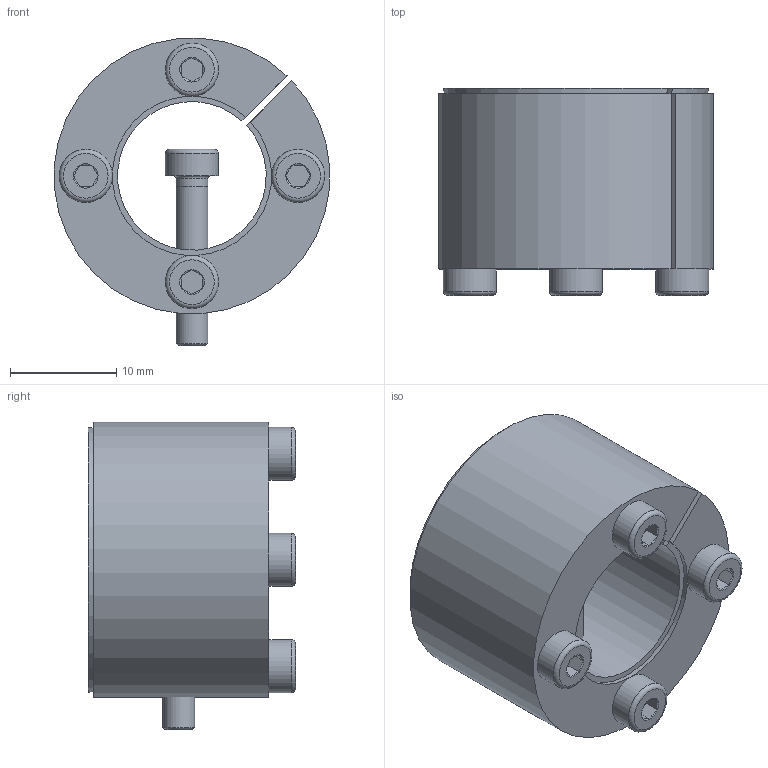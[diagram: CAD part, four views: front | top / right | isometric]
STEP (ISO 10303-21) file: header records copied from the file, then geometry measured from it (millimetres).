
FILE_DESCRIPTION( ( 'Unknown' ), '1' );
FILE_NAME( 'C:/Dokumente und Einstellungen/Sven/Desktop/homepage/cad - homepage/KBS61/KBS 61 - 14 x 26.stp', 'Unknown', ( 'Unknown' ), ( 'Unknown' ), 'XStep 1.0', 'Unknown', ' ' );
FILE_SCHEMA( ( 'automotive_design' ) );
Length unit declared in the file: millimetre
Products named in the file (3): Assem1; KBS 61 - 14 x 26; ISO EN DIN 4762 M3x16
Bounding box: 25.93 x 19.5 x 28.97 mm (x, y, z)
Volume: 12439.5 mm3; surface area: 8486.2 mm2
Topology: 7 solids, 7 shells, 153 faces, 295 edges, 176 vertices
Faces by surface type: plane 72, cone 39, cylinder 32, torus 10
Full cylindrical faces by diameter (mm): 2.98 x5, 3 x18, 5 x5
Entity records: 1174 total; most frequent: CARTESIAN_POINT 205, DIRECTION 180, ORIENTED_EDGE 134, AXIS2_PLACEMENT_3D 78, EDGE_CURVE 67, EDGE_LOOP 62, FACE_OUTER_BOUND 49, VERTEX_POINT 47
